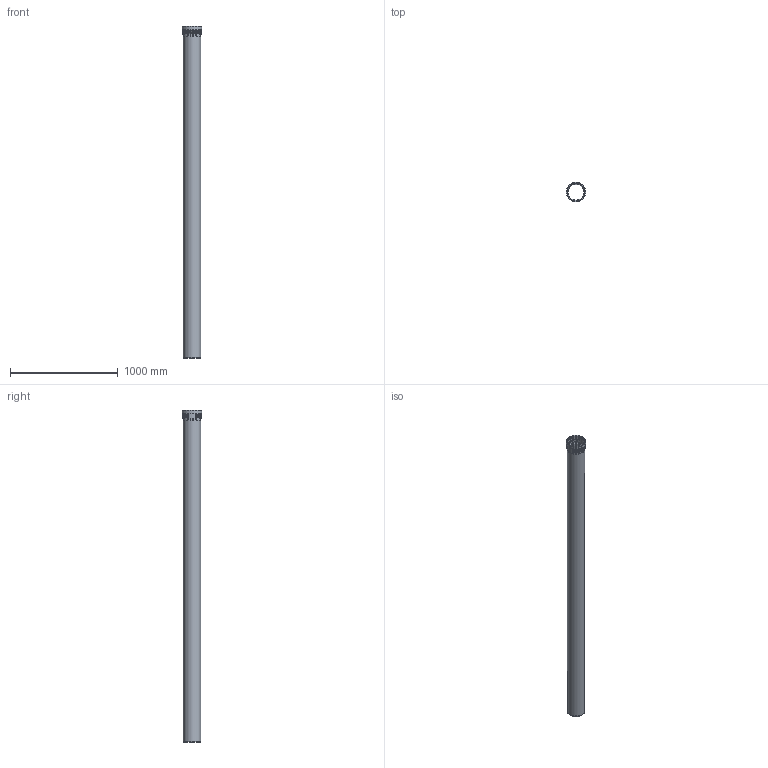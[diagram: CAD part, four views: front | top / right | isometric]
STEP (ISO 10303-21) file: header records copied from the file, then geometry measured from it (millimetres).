
FILE_DESCRIPTION(/* description */ (''),/* implementation_level */ '2;1');
FILE_NAME(/* name */ 'Z:\Geberit\Export\NewStep\390707.stp',/* time_stamp */ '2014-04-02T08:16:30+02:00',/* author */ ('ML'),/* organization */ (''),/* preprocessor_version */ 'ST-DEVELOPER v15.2',/* originating_system */ 'Autodesk Inventor 2014',/* authorisation */ '');
FILE_SCHEMA (('AUTOMOTIVE_DESIGN { 1 0 10303 214 3 1 1 }'));
Length unit declared in the file: millimetre
Products named in the file (3): 861679; 861587ohne; 390707
Bounding box: 182.6 x 182.6 x 3080.6 mm (x, y, z)
Volume: 7885092.9 mm3; surface area: 3046244.8 mm2
Topology: 2 solids, 2 shells, 47 faces, 104 edges, 71 vertices
Faces by surface type: torus 24, cylinder 11, plane 10, cone 2
Full cylindrical faces by diameter (mm): 149.85 x2, 160.25 x2, 161.4 x2, 166.6 x1, 171.8 x2, 172.2 x1, 182.6 x1
Entity records: 2003 total; most frequent: CARTESIAN_POINT 962, DIRECTION 182, ORIENTED_EDGE 174, AXIS2_PLACEMENT_3D 91, EDGE_CURVE 87, EDGE_LOOP 78, VERTEX_POINT 71, STYLED_ITEM 49
